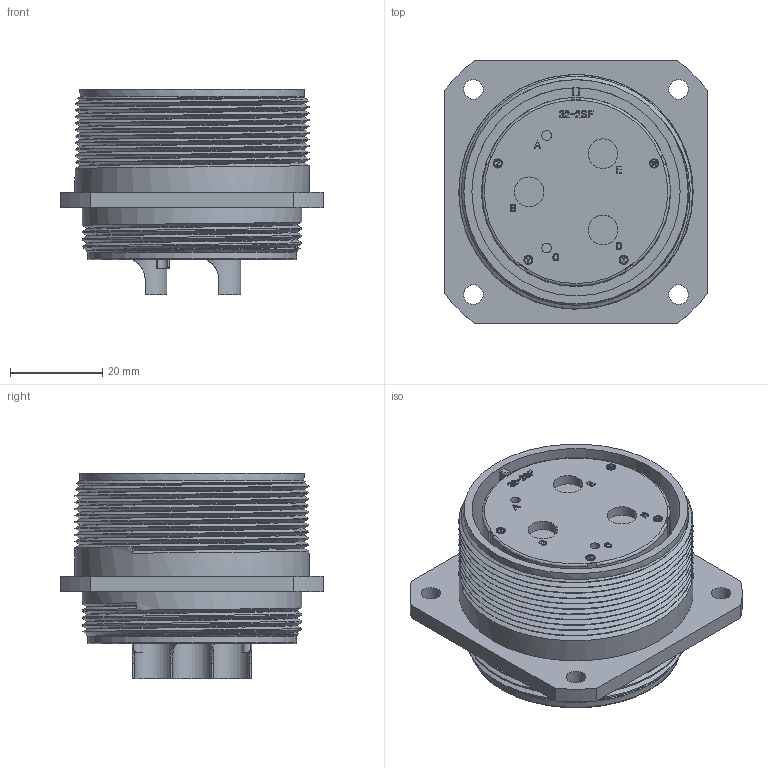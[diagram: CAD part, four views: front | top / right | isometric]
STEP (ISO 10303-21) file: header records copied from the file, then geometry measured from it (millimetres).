
FILE_DESCRIPTION (( 'STEP AP203' ), '1' );
FILE_NAME ('DMS3100A32-2S(D263).STEP', '2022-02-15T01:13:44', ( '' ), ( '' ), 'SwSTEP 2.0', 'SolidWorks 2018', '' );
FILE_SCHEMA (( 'CONFIG_CONTROL_DESIGN' ));
Length unit declared in the file: millimetre
Products named in the file (1): DMS3100A32-2S(D263)
Bounding box: 56.9 x 56.9 x 44.59 mm (x, y, z)
Volume: 61801.7 mm3; surface area: 23639 mm2
Topology: 1 solids, 1 shells, 695 faces, 1861 edges, 1235 vertices
Faces by surface type: plane 341, bspline 252, cylinder 93, torus 7, cone 2
Full cylindrical faces by diameter (mm): 1.6 x4, 2 x4, 2.11 x2, 4.27 x4, 6.43 x3, 8.33 x3, 9.48 x3, 38.1 x1, 41 x1, 42.93 x1, 45.12 x1, 45.3 x1, 47.58 x3, 48.6 x1, 50.76 x9
Entity records: 31279 total; most frequent: CARTESIAN_POINT 16128, ORIENTED_EDGE 3548, DIRECTION 2217, EDGE_CURVE 1774, VERTEX_POINT 1195, VECTOR 1065, LINE 1065, EDGE_LOOP 793
